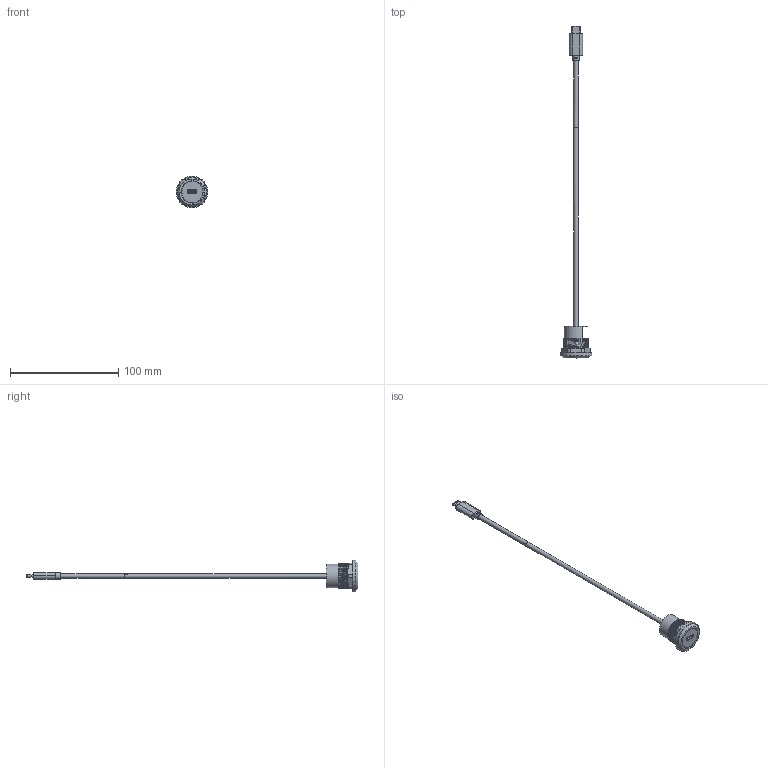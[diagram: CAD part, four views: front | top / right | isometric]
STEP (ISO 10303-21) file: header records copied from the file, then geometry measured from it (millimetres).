
FILE_DESCRIPTION(('FreeCAD Model'),'2;1');
FILE_NAME('Open CASCADE Shape Model','2024-03-05T09:16:16',(''),(''), 'Open CASCADE STEP processor 7.6','FreeCAD','Unknown');
FILE_SCHEMA(('AUTOMOTIVE_DESIGN { 1 0 10303 214 1 1 1 1 }'));
Length unit declared in the file: millimetre
Products named in the file (6): EX_49183_3D; 49183_Rubber O-ring; 49183_USB-C_female; 49183_USB-C_cable; 49183_USB-C_connector; 49183_Coupling nut
Assembly tree (5 placements, depth 2):
  EX_49183_3D
    49183_Rubber O-ring
    49183_USB-C_female
    49183_USB-C_cable
    49183_USB-C_connector
    49183_Coupling nut
Bounding box: 29.2 x 306.66 x 29.2 mm (x, y, z)
Volume: 8653.5 mm3; surface area: 12767.3 mm2
Topology: 7 solids, 7 shells, 1162 faces, 3281 edges, 2138 vertices
Faces by surface type: plane 832, cylinder 266, cone 25, bspline 25, torus 14
Full cylindrical faces by diameter (mm): 4.2 x3, 6 x1, 20 x1, 20.6 x1, 21.6 x1, 25.6 x1, 27.7 x1, 29.2 x1
Entity records: 241428 total; most frequent: CARTESIAN_POINT 211421, ORIENTED_EDGE 6558, DIRECTION 5717, EDGE_CURVE 3279, LINE 2329, VECTOR 2329, VERTEX_POINT 2138, AXIS2_PLACEMENT_3D 1694
